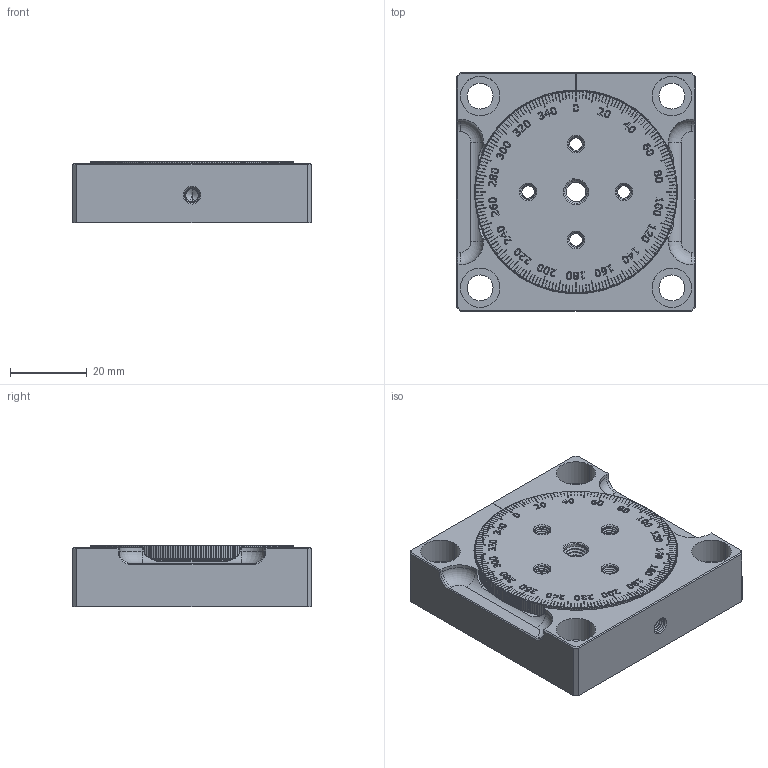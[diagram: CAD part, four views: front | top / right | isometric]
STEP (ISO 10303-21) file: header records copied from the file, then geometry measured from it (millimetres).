
FILE_DESCRIPTION (( 'STEP AP214' ), '1' );
FILE_NAME ('BASE-TSX-R.STEP', '2023-03-25T07:40:46', ( '' ), ( '' ), 'SwSTEP 2.0', 'SolidWorks 2017', '' );
FILE_SCHEMA (( 'AUTOMOTIVE_DESIGN' ));
Length unit declared in the file: millimetre
Products named in the file (2): BASE-TSX-R
Bounding box: 62.23 x 62.23 x 16.15 mm (x, y, z)
Volume: 53040.8 mm3; surface area: 29556.5 mm2
Topology: 7 solids, 7 shells, 3430 faces, 8872 edges, 5908 vertices
Faces by surface type: cylinder 1492, plane 1256, bspline 631, cone 47, torus 4
Entity records: 211141 total; most frequent: CARTESIAN_POINT 98310, ORIENTED_EDGE 17740, DIRECTION 11359, EDGE_CURVE 8870, VERTEX_POINT 5908, B_SPLINE_CURVE_WITH_KNOTS 4126, EDGE_LOOP 3912, AXIS2_PLACEMENT_3D 3814
